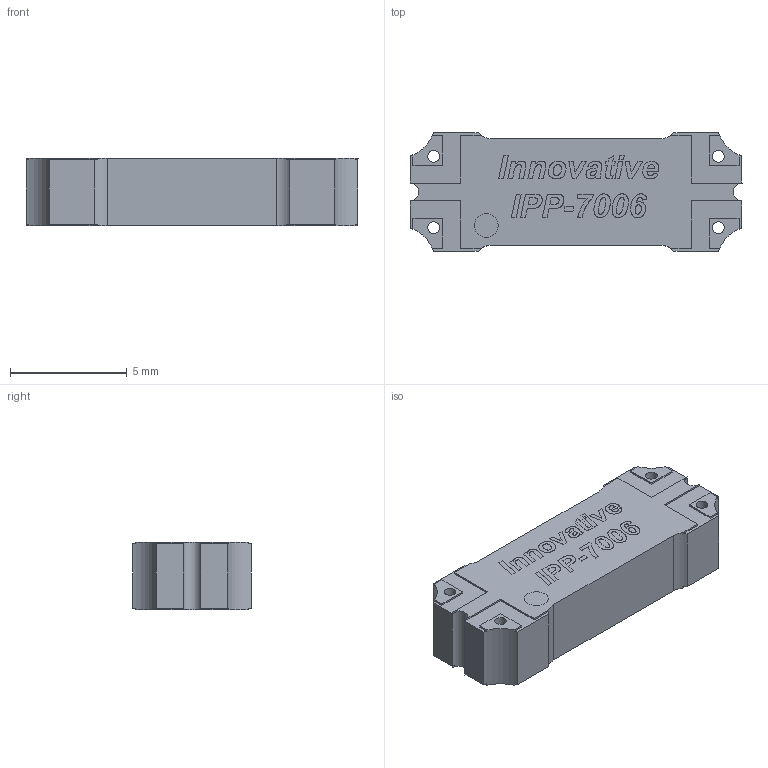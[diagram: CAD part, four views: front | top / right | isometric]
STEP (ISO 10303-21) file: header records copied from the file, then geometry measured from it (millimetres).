
FILE_DESCRIPTION(/* description */ (''),/* implementation_level */ '2;1');
FILE_NAME(/* name */ 'X:\Inventor\Models for Website\90 SMD\IPP-7006\IPP-7006.stp',/* time_stamp */ '2018-02-05T08:52:27-05:00',/* author */ ('scornell'),/* organization */ (''),/* preprocessor_version */ 'ST-DEVELOPER v16.1',/* originating_system */ 'Autodesk Inventor 2016',/* authorisation */ '');
FILE_SCHEMA (('AUTOMOTIVE_DESIGN { 1 0 10303 214 3 1 1 }'));
Length unit declared in the file: inch
Products named in the file (1): IPP-7006
Bounding box: 14.22 x 5.08 x 2.91 mm (x, y, z)
Volume: 184.8 mm3; surface area: 259.2 mm2
Topology: 1 solids, 1 shells, 334 faces, 908 edges, 604 vertices
Faces by surface type: plane 202, bspline 117, cylinder 15
Full cylindrical faces by diameter (mm): 0.508 x4, 1.016 x1
Entity records: 11264 total; most frequent: CARTESIAN_POINT 3227, ORIENTED_EDGE 1798, DIRECTION 1155, EDGE_CURVE 899, LINE 611, VECTOR 611, VERTEX_POINT 600, EDGE_LOOP 375
